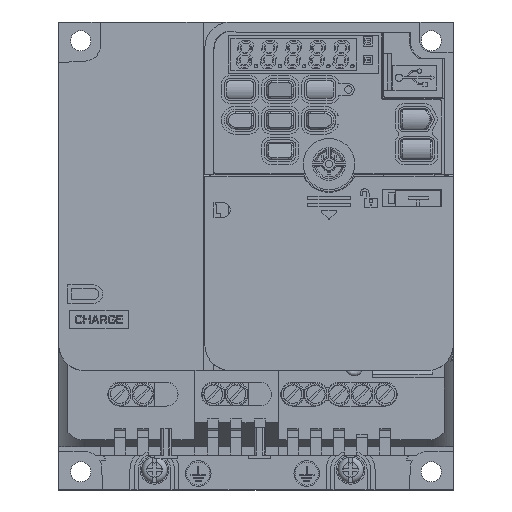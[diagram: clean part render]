
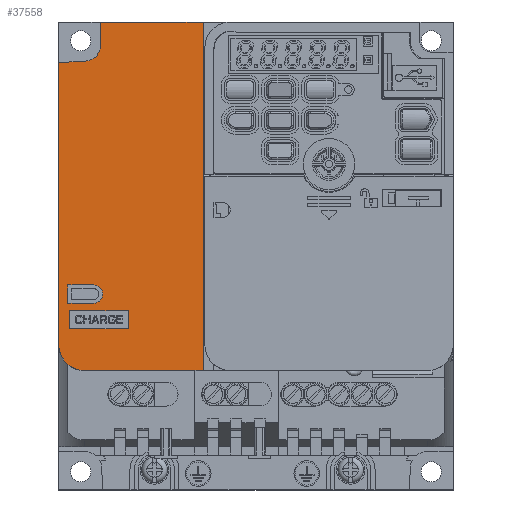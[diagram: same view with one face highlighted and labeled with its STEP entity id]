
A CAD part, top view. The second image highlights one B-rep face of the part: STEP entity #37558.
In plain terms, the highlighted planar face has unit normal (0, 0, 1).
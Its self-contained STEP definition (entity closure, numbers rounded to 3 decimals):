
#936=CARTESIAN_POINT('',(-47.,39.6,137.5));
#937=DIRECTION('',(0.,0.,1.));
#938=DIRECTION('',(-1.,0.,0.));
#939=AXIS2_PLACEMENT_3D('',#936,#937,#938);
#941=DIRECTION('',(0.,-1.,0.));
#942=VECTOR('',#941,77.297);
#943=CARTESIAN_POINT('',(-54.,116.897,137.5));
#944=LINE('',#943,#942);
#945=DIRECTION('',(0.999,0.052,0.));
#946=VECTOR('',#945,7.245);
#947=CARTESIAN_POINT('',(-54.,116.897,137.5));
#948=LINE('',#947,#946);
#949=DIRECTION('',(0.,-1.,0.));
#950=VECTOR('',#949,6.23);
#951=CARTESIAN_POINT('',(-42.5,128.,137.5));
#952=LINE('',#951,#950);
#953=DIRECTION('',(-1.,0.,0.));
#954=VECTOR('',#953,28.);
#955=CARTESIAN_POINT('',(-14.5,128.,137.5));
#956=LINE('',#955,#954);
#957=DIRECTION('',(0.,1.,0.));
#958=VECTOR('',#957,95.4);
#959=CARTESIAN_POINT('',(-14.5,32.6,137.5));
#960=LINE('',#959,#958);
#961=DIRECTION('',(1.,0.,0.));
#962=VECTOR('',#961,32.5);
#963=CARTESIAN_POINT('',(-47.,32.6,137.5));
#964=LINE('',#963,#962);
#965=DIRECTION('',(-1.,0.,0.));
#966=VECTOR('',#965,7.);
#967=CARTESIAN_POINT('',(-44.5,51.,137.5));
#968=LINE('',#967,#966);
#969=CARTESIAN_POINT('',(-44.5,53.5,137.5));
#970=DIRECTION('',(0.,0.,-1.));
#971=DIRECTION('',(0.,1.,0.));
#972=AXIS2_PLACEMENT_3D('',#969,#970,#971);
#974=DIRECTION('',(1.,0.,0.));
#975=VECTOR('',#974,7.);
#976=CARTESIAN_POINT('',(-51.5,56.,137.5));
#977=LINE('',#976,#975);
#978=DIRECTION('',(0.,1.,0.));
#979=VECTOR('',#978,5.);
#980=CARTESIAN_POINT('',(-51.5,51.,137.5));
#981=LINE('',#980,#979);
#982=DIRECTION('',(0.,-1.,0.));
#983=VECTOR('',#982,5.);
#984=CARTESIAN_POINT('',(-51.,49.,137.5));
#985=LINE('',#984,#983);
#986=DIRECTION('',(1.,0.,0.));
#987=VECTOR('',#986,16.);
#988=CARTESIAN_POINT('',(-51.,44.,137.5));
#989=LINE('',#988,#987);
#990=DIRECTION('',(0.,1.,0.));
#991=VECTOR('',#990,5.);
#992=CARTESIAN_POINT('',(-35.,44.,137.5));
#993=LINE('',#992,#991);
#994=DIRECTION('',(-1.,0.,0.));
#995=VECTOR('',#994,16.);
#996=CARTESIAN_POINT('',(-35.,49.,137.5));
#997=LINE('',#996,#995);
#1007=CARTESIAN_POINT('',(-47.,121.77,137.5));
#1008=DIRECTION('',(0.,0.,-1.));
#1009=DIRECTION('',(1.,0.,0.));
#1010=AXIS2_PLACEMENT_3D('',#1007,#1008,#1009);
#30984=CARTESIAN_POINT('',(-14.5,32.6,137.5));
#30985=CARTESIAN_POINT('',(-14.5,128.,137.5));
#30986=VERTEX_POINT('',#30984);
#30987=VERTEX_POINT('',#30985);
#31524=CARTESIAN_POINT('',(-42.5,128.,137.5));
#31525=VERTEX_POINT('',#31524);
#32404=CARTESIAN_POINT('',(-51.,49.,137.5));
#32405=CARTESIAN_POINT('',(-51.,44.,137.5));
#32406=VERTEX_POINT('',#32404);
#32407=VERTEX_POINT('',#32405);
#32408=CARTESIAN_POINT('',(-35.,44.,137.5));
#32409=VERTEX_POINT('',#32408);
#32410=CARTESIAN_POINT('',(-35.,49.,137.5));
#32411=VERTEX_POINT('',#32410);
#32858=CARTESIAN_POINT('',(-54.,116.897,137.5));
#32860=VERTEX_POINT('',#32858);
#32862=CARTESIAN_POINT('',(-46.764,117.277,137.5));
#32864=VERTEX_POINT('',#32862);
#32866=CARTESIAN_POINT('',(-42.5,121.77,137.5));
#32868=VERTEX_POINT('',#32866);
#33052=CARTESIAN_POINT('',(-44.5,51.,137.5));
#33053=CARTESIAN_POINT('',(-51.5,51.,137.5));
#33054=VERTEX_POINT('',#33052);
#33055=VERTEX_POINT('',#33053);
#33056=CARTESIAN_POINT('',(-51.5,56.,137.5));
#33057=VERTEX_POINT('',#33056);
#33058=CARTESIAN_POINT('',(-44.5,56.,137.5));
#33059=VERTEX_POINT('',#33058);
#36100=CARTESIAN_POINT('',(-54.,39.6,137.5));
#36102=VERTEX_POINT('',#36100);
#36104=CARTESIAN_POINT('',(-47.,32.6,137.5));
#36105=VERTEX_POINT('',#36104);
#37518=CARTESIAN_POINT('',(0.,0.,137.5));
#37519=DIRECTION('',(0.,0.,1.));
#37520=DIRECTION('',(1.,0.,0.));
#37521=AXIS2_PLACEMENT_3D('',#37518,#37519,#37520);
#37522=PLANE('',#37521);
#37523=ORIENTED_EDGE('',*,*,#37498,.F.);
#37524=ORIENTED_EDGE('',*,*,#37202,.F.);
#37526=ORIENTED_EDGE('',*,*,#37525,.T.);
#37528=ORIENTED_EDGE('',*,*,#37527,.F.);
#37530=ORIENTED_EDGE('',*,*,#37529,.F.);
#37531=ORIENTED_EDGE('',*,*,#36663,.F.);
#37533=ORIENTED_EDGE('',*,*,#37532,.F.);
#37535=ORIENTED_EDGE('',*,*,#37534,.F.);
#37536=EDGE_LOOP('',(#37523,#37524,#37526,#37528,#37530,#37531,#37533,#37535));
#37537=FACE_OUTER_BOUND('',#37536,.F.);
#37539=ORIENTED_EDGE('',*,*,#37538,.F.);
#37541=ORIENTED_EDGE('',*,*,#37540,.F.);
#37543=ORIENTED_EDGE('',*,*,#37542,.F.);
#37545=ORIENTED_EDGE('',*,*,#37544,.F.);
#37546=EDGE_LOOP('',(#37539,#37541,#37543,#37545));
#37547=FACE_BOUND('',#37546,.F.);
#37549=ORIENTED_EDGE('',*,*,#37548,.T.);
#37551=ORIENTED_EDGE('',*,*,#37550,.T.);
#37553=ORIENTED_EDGE('',*,*,#37552,.T.);
#37555=ORIENTED_EDGE('',*,*,#37554,.T.);
#37556=EDGE_LOOP('',(#37549,#37551,#37553,#37555));
#37557=FACE_BOUND('',#37556,.F.);
#940=CIRCLE('',#939,7.);
#973=CIRCLE('',#972,2.5);
#1011=CIRCLE('',#1010,4.5);
#36663=EDGE_CURVE('',#30987,#31525,#956,.T.);
#37202=EDGE_CURVE('',#32860,#36102,#944,.T.);
#37498=EDGE_CURVE('',#36102,#36105,#940,.T.);
#37525=EDGE_CURVE('',#32860,#32864,#948,.T.);
#37527=EDGE_CURVE('',#32868,#32864,#1011,.T.);
#37529=EDGE_CURVE('',#31525,#32868,#952,.T.);
#37532=EDGE_CURVE('',#30986,#30987,#960,.T.);
#37534=EDGE_CURVE('',#36105,#30986,#964,.T.);
#37538=EDGE_CURVE('',#33054,#33055,#968,.T.);
#37540=EDGE_CURVE('',#33059,#33054,#973,.T.);
#37542=EDGE_CURVE('',#33057,#33059,#977,.T.);
#37544=EDGE_CURVE('',#33055,#33057,#981,.T.);
#37548=EDGE_CURVE('',#32406,#32407,#985,.T.);
#37550=EDGE_CURVE('',#32407,#32409,#989,.T.);
#37552=EDGE_CURVE('',#32409,#32411,#993,.T.);
#37554=EDGE_CURVE('',#32411,#32406,#997,.T.);
#37558=ADVANCED_FACE('',(#37537,#37547,#37557),#37522,.T.);
